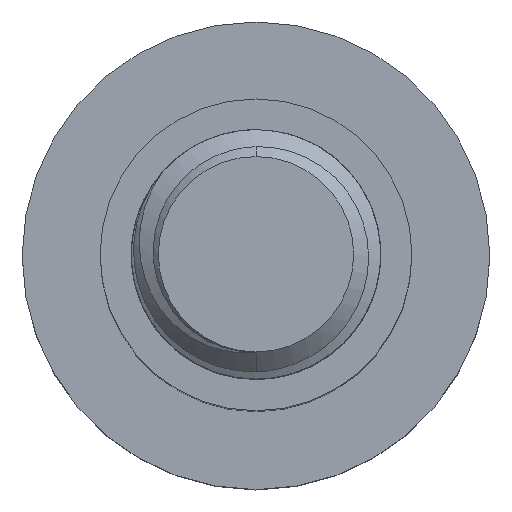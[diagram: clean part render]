
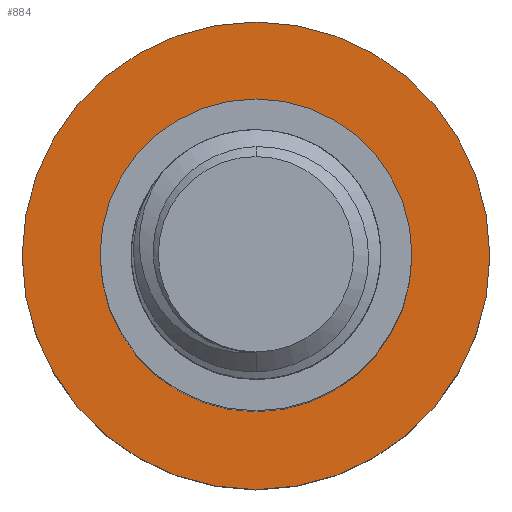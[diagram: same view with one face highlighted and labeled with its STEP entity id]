
A CAD part, top view. The second image highlights one B-rep face of the part: STEP entity #884.
In plain terms, the highlighted planar face has unit normal (0, 0, 1).
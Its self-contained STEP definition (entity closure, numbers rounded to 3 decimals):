
#21 = DIRECTION ( 'NONE',  ( 0., 0., -1. ) ) ;
#43 = EDGE_CURVE ( 'NONE', #5354, #5268, #5632, .T. ) ;
#52 = DIRECTION ( 'NONE',  ( 0., 0., -1. ) ) ;
#392 = EDGE_CURVE ( 'NONE', #2123, #4534, #5369, .T. ) ;
#694 = AXIS2_PLACEMENT_3D ( 'NONE', #755, #2877, #1216 ) ;
#710 = EDGE_CURVE ( 'NONE', #4534, #2123, #880, .T. ) ;
#755 = CARTESIAN_POINT ( 'NONE',  ( 0., 0., -35. ) ) ;
#880 = CIRCLE ( 'NONE', #694, 10. ) ;
#884 = ADVANCED_FACE ( 'NONE', ( #4236, #2040 ), #5566, .F. ) ;
#977 = AXIS2_PLACEMENT_3D ( 'NONE', #2068, #5509, #1616 ) ;
#1216 = DIRECTION ( 'NONE',  ( -1., 0., 0. ) ) ;
#1269 = CARTESIAN_POINT ( 'NONE',  ( 0., 0., -35. ) ) ;
#1355 = EDGE_LOOP ( 'NONE', ( #3975, #4001 ) ) ;
#1512 = CARTESIAN_POINT ( 'NONE',  ( 15., 0., -35. ) ) ;
#1616 = DIRECTION ( 'NONE',  ( -1., 0., 0. ) ) ;
#1683 = CIRCLE ( 'NONE', #1865, 15. ) ;
#1801 = CARTESIAN_POINT ( 'NONE',  ( 0., 0., -35. ) ) ;
#1804 = DIRECTION ( 'NONE',  ( -1., 0., 0. ) ) ;
#1865 = AXIS2_PLACEMENT_3D ( 'NONE', #1801, #2117, #5692 ) ;
#2040 = FACE_OUTER_BOUND ( 'NONE', #1355, .T. ) ;
#2068 = CARTESIAN_POINT ( 'NONE',  ( 0., 0., -35. ) ) ;
#2117 = DIRECTION ( 'NONE',  ( 0., 0., -1. ) ) ;
#2123 = VERTEX_POINT ( 'NONE', #3764 ) ;
#2261 = CARTESIAN_POINT ( 'NONE',  ( 0., 0., -35. ) ) ;
#2705 = ORIENTED_EDGE ( 'NONE', *, *, #710, .T. ) ;
#2877 = DIRECTION ( 'NONE',  ( 0., 0., -1. ) ) ;
#3157 = AXIS2_PLACEMENT_3D ( 'NONE', #2261, #52, #1804 ) ;
#3513 = CARTESIAN_POINT ( 'NONE',  ( -15., 0., -35. ) ) ;
#3671 = ORIENTED_EDGE ( 'NONE', *, *, #392, .T. ) ;
#3764 = CARTESIAN_POINT ( 'NONE',  ( 10., 0., -35. ) ) ;
#3975 = ORIENTED_EDGE ( 'NONE', *, *, #43, .F. ) ;
#4001 = ORIENTED_EDGE ( 'NONE', *, *, #4499, .F. ) ;
#4236 = FACE_BOUND ( 'NONE', #5187, .T. ) ;
#4339 = CARTESIAN_POINT ( 'NONE',  ( -10., 0., -35. ) ) ;
#4343 = DIRECTION ( 'NONE',  ( -1., 0., 0. ) ) ;
#4499 = EDGE_CURVE ( 'NONE', #5268, #5354, #1683, .T. ) ;
#4534 = VERTEX_POINT ( 'NONE', #4339 ) ;
#4602 = AXIS2_PLACEMENT_3D ( 'NONE', #1269, #21, #4343 ) ;
#5187 = EDGE_LOOP ( 'NONE', ( #2705, #3671 ) ) ;
#5268 = VERTEX_POINT ( 'NONE', #3513 ) ;
#5354 = VERTEX_POINT ( 'NONE', #1512 ) ;
#5369 = CIRCLE ( 'NONE', #3157, 10. ) ;
#5509 = DIRECTION ( 'NONE',  ( 0., 0., -1. ) ) ;
#5566 = PLANE ( 'NONE',  #977 ) ;
#5632 = CIRCLE ( 'NONE', #4602, 15. ) ;
#5692 = DIRECTION ( 'NONE',  ( -1., 0., 0. ) ) ;
